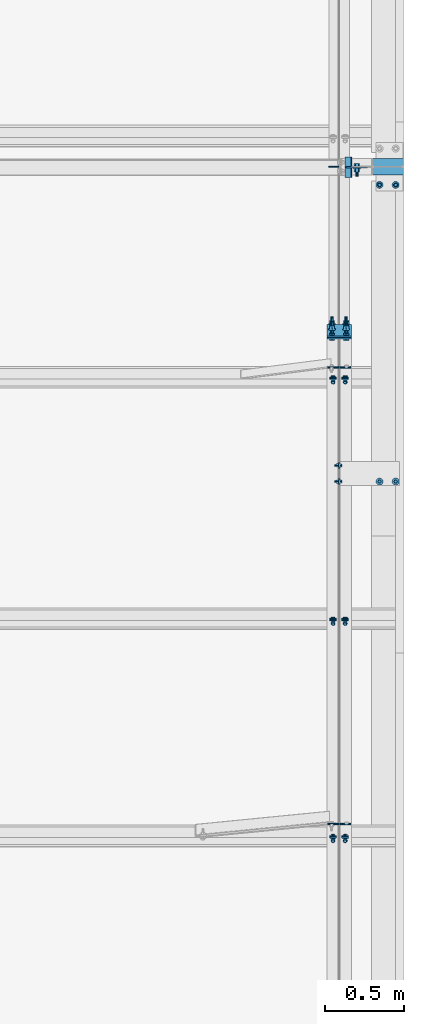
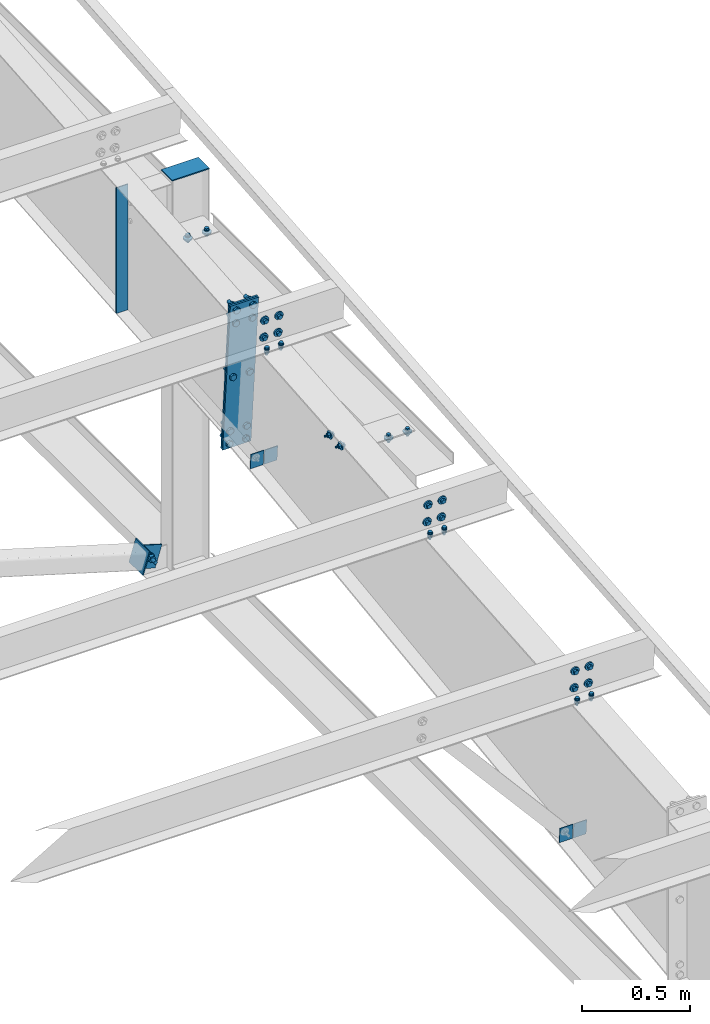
# One storey, part 105 of 185: 16 mechanical fasteners, 10 discrete accessories, 9 elements without a shape of their own.
"""IFC2X3 building model written with IfcOpenShell, lengths in millimetres."""

from ifc_helpers import new_model, si_unit, frame, frame_2d, origin_with_axes, origin_2d_with_axis, place, context, subcontext, project, spatial, polyline, circle_curve, parameter, trimmed, segment, composite_curve, rectangle, circle, outline, extrude, source, transform, mapped, material, type_object, element, aggregate, save


model = new_model("IFC2X3")

# Units and contexts
model_context = context("Model", 3, precision=1e-05, world=origin_with_axes())
body_context = subcontext(model_context, "Body", "Model", "MODEL_VIEW")
ifc_project = project(units=[si_unit("LENGTHUNIT", "METRE", prefix="MILLI"), si_unit("AREAUNIT", "SQUARE_METRE"), si_unit("VOLUMEUNIT", "CUBIC_METRE"), si_unit("MASSUNIT", "GRAM", prefix="KILO"), si_unit("TIMEUNIT", "SECOND"), si_unit("PLANEANGLEUNIT", "RADIAN"), si_unit("SOLIDANGLEUNIT", "STERADIAN"), si_unit("THERMODYNAMICTEMPERATUREUNIT", "DEGREE_CELSIUS"), si_unit("LUMINOUSINTENSITYUNIT", "LUMEN")], contexts=[model_context])

# Site, building, storey
site_placement = place(None, origin_with_axes())
site = spatial("IfcSite", under=ifc_project, at=site_placement, Name="Undefined", CompositionType="ELEMENT")
building_placement = place(site_placement, origin_with_axes())
building = spatial("IfcBuilding", under=site, at=building_placement, Name="Undefined", CompositionType="ELEMENT")
storey_placement = place(building_placement, origin_with_axes())
storey = spatial("IfcBuildingStorey", under=building, at=storey_placement, Name="Undefined", CompositionType="ELEMENT", Elevation=0.0)

# Assembly, discrete accessory
assembly_1_placement = place(storey_placement, origin_with_axes())
assembly_1 = element("IfcElementAssembly", 1, at=assembly_1_placement, inside=storey, Name="Steel Assembly", AssemblyPlace="NOTDEFINED", PredefinedType="RIGID_FRAME")
ifc_material_1 = material(Name="STEEL/55")
discrete_accessory_type_1 = type_object("IfcDiscreteAccessoryType", Name="Stiff")
discrete_accessory_1_placement = place(assembly_1_placement, frame((44518.14185, 6400.8, 6418.659375), z_axis=(-1.0, 0.0, 0.0), x_axis=(0.0, 0.0, -1.0)))
discrete_accessory_1 = element("IfcDiscreteAccessory", 2, at=discrete_accessory_1_placement, type_object=discrete_accessory_type_1, material=ifc_material_1, Name="Stiff", ObjectType="FL1/4\"X2 1/2\"", context=body_context, shape_type="SweptSolid", body=[
    extrude(rectangle(XDim=6.35, YDim=63.5, at=origin_2d_with_axis()), frame((712.793737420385, 0.0, 0.0), z_axis=(-1.0, 0.0, 0.0), x_axis=(0.0, -1.0, 0.0)), (0.0, 0.0, 1.0), 712.8),
])

# Assembly, mechanical fasteners
assembly_2_placement = place(storey_placement, origin_with_axes())
assembly_2 = element("IfcElementAssembly", 3, at=assembly_2_placement, inside=storey, Name="Steel Assembly", AssemblyPlace="NOTDEFINED", PredefinedType="RIGID_FRAME")
ifc_material_2 = material(Name="Undefined")
discrete_accessory_type_2 = type_object("IfcDiscreteAccessoryType", Name="Bolt assembly")
shared_shape_1 = source(origin_with_axes(), body_context, "Body", "SweptSolid", [
    extrude(circle(Radius=7.14374971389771, at=origin_2d_with_axis()), frame((0.0, -1.59000001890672, 0.0), z_axis=(0.0, 1.0, 0.0), x_axis=(1.0, 0.0, 0.0)), (0.0, 0.0, 1.0), 3.3),
    extrude(circle(Radius=13.4937496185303, at=origin_2d_with_axis()), frame((0.0, -5.5587500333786, 0.0), z_axis=(0.0, 1.0, 0.0), x_axis=(1.0, 0.0, 0.0)), (0.0, 0.0, 1.0), 4.0),
    extrude(circle(Radius=22.2250003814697, at=origin_2d_with_axis()), frame((0.0, 1.5900000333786, 0.0), z_axis=(0.0, 1.0, 0.0), x_axis=(1.0, 0.0, 0.0)), (0.0, 0.0, 1.0), 7.9),
    extrude(outline(polyline([(12.8316099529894, 0.0), (6.4158049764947, 11.1125001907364), (-6.4158049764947, 11.1125001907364), (-12.8316099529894, 0.0), (-6.4158049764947, -11.1125001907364), (6.4158049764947, -11.1125001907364), (12.8316099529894, 0.0)])), frame((0.0, 9.5275000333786, 0.0), z_axis=(0.0, 1.0, 0.0), x_axis=(1.0, 0.0, 0.0)), (0.0, 0.0, 1.0), 12.3),
])
mechanical_fastener_1_placement = place(assembly_2_placement, frame((44513.5, 2185.72394128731, 6227.16757842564), z_axis=(-1.0, 0.0, 0.0), x_axis=(0.0, 0.0830454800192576, -0.996545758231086)))
mechanical_fastener_1 = element("IfcMechanicalFastener", 4, at=mechanical_fastener_1_placement, type_object=discrete_accessory_type_2, material=ifc_material_2, Name="Bolt assembly", NominalDiameter=12.6999998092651, NominalLength=38.0999984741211, context=body_context, shape_type="MappedRepresentation", body=[
    mapped(shared_shape_1, transform((0.0, 0.0, 0.0))),
    mapped(shared_shape_1, transform((101.599998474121, 0.0, 0.0))),
])
mechanical_fastener_2_placement = place(assembly_2_placement, frame((44589.7, 2185.72394128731, 6227.16757842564), z_axis=(-1.0, 0.0, 0.0), x_axis=(0.0, 0.0830454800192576, -0.996545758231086)))
mechanical_fastener_2 = element("IfcMechanicalFastener", 5, at=mechanical_fastener_2_placement, type_object=discrete_accessory_type_2, material=ifc_material_2, Name="Bolt assembly", NominalDiameter=12.6999998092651, NominalLength=38.0999984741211, context=body_context, shape_type="MappedRepresentation", body=[
    mapped(shared_shape_1, transform((0.0, 0.0, 0.0))),
    mapped(shared_shape_1, transform((101.599998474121, 0.0, 0.0))),
])

assembly_3_placement = place(storey_placement, origin_with_axes())
assembly_3 = element("IfcElementAssembly", 6, at=assembly_3_placement, inside=storey, Name="Steel Assembly", AssemblyPlace="NOTDEFINED", PredefinedType="RIGID_FRAME")
mechanical_fastener_3_placement = place(assembly_3_placement, frame((44513.5, 3552.58610327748, 6341.07275882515), z_axis=(-1.0, 0.0, 0.0), x_axis=(0.0, 0.0830454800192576, -0.996545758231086)))
mechanical_fastener_3 = element("IfcMechanicalFastener", 7, at=mechanical_fastener_3_placement, type_object=discrete_accessory_type_2, material=ifc_material_2, Name="Bolt assembly", NominalDiameter=12.6999998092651, NominalLength=38.0999984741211, context=body_context, shape_type="MappedRepresentation", body=[
    mapped(shared_shape_1, transform((0.0, 0.0, 0.0))),
    mapped(shared_shape_1, transform((101.599998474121, 0.0, 0.0))),
])
mechanical_fastener_4_placement = place(assembly_3_placement, frame((44589.7, 3552.58610327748, 6341.07275882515), z_axis=(-1.0, 0.0, 0.0), x_axis=(0.0, 0.0830454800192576, -0.996545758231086)))
mechanical_fastener_4 = element("IfcMechanicalFastener", 8, at=mechanical_fastener_4_placement, type_object=discrete_accessory_type_2, material=ifc_material_2, Name="Bolt assembly", NominalDiameter=12.6999998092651, NominalLength=38.0999984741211, context=body_context, shape_type="MappedRepresentation", body=[
    mapped(shared_shape_1, transform((0.0, 0.0, 0.0))),
    mapped(shared_shape_1, transform((101.599998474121, 0.0, 0.0))),
])

assembly_4_placement = place(storey_placement, origin_with_axes())
assembly_4 = element("IfcElementAssembly", 9, at=assembly_4_placement, inside=storey, Name="Steel Assembly", AssemblyPlace="NOTDEFINED", PredefinedType="RIGID_FRAME")
mechanical_fastener_5_placement = place(assembly_4_placement, frame((44513.5, 5071.32183882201, 6467.63407037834), z_axis=(-1.0, 0.0, 0.0), x_axis=(0.0, 0.0830454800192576, -0.996545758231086)))
mechanical_fastener_5 = element("IfcMechanicalFastener", 10, at=mechanical_fastener_5_placement, type_object=discrete_accessory_type_2, material=ifc_material_2, Name="Bolt assembly", NominalDiameter=12.6999998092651, NominalLength=38.0999984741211, context=body_context, shape_type="MappedRepresentation", body=[
    mapped(shared_shape_1, transform((0.0, 0.0, 0.0))),
    mapped(shared_shape_1, transform((101.599998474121, 0.0, 0.0))),
])
mechanical_fastener_6_placement = place(assembly_4_placement, frame((44589.7, 5071.32183882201, 6467.63407037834), z_axis=(-1.0, 0.0, 0.0), x_axis=(0.0, 0.0830454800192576, -0.996545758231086)))
mechanical_fastener_6 = element("IfcMechanicalFastener", 11, at=mechanical_fastener_6_placement, type_object=discrete_accessory_type_2, material=ifc_material_2, Name="Bolt assembly", NominalDiameter=12.6999998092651, NominalLength=38.0999984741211, context=body_context, shape_type="MappedRepresentation", body=[
    mapped(shared_shape_1, transform((0.0, 0.0, 0.0))),
    mapped(shared_shape_1, transform((101.599998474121, 0.0, 0.0))),
])

# Assembly, discrete accessories
assembly_5_placement = place(storey_placement, origin_with_axes())
assembly_5 = element("IfcElementAssembly", 12, at=assembly_5_placement, inside=storey, Name="Steel Assembly", AssemblyPlace="NOTDEFINED", PredefinedType="RIGID_FRAME")
discrete_accessory_type_3 = type_object("IfcDiscreteAccessoryType", Name="PLATE")
discrete_accessory_2_placement = place(assembly_5_placement, frame((44644.4654492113, 6397.62500009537, 4205.58817041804), z_axis=(0.957765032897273, 0.0, -0.287551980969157), x_axis=(0.287551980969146, 0.0, 0.957765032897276)))
discrete_accessory_2 = element("IfcDiscreteAccessory", 13, at=discrete_accessory_2_placement, type_object=discrete_accessory_type_3, material=ifc_material_1, Name="PLATE", ObjectType="FL1/4\"X4\"", context=body_context, shape_type="SweptSolid", body=[
    extrude(rectangle(XDim=6.35, YDim=101.6, at=origin_2d_with_axis()), frame((127.000000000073, 3.63797855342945e-12, 7.27595761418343e-12), z_axis=(-1.0, 0.0, 0.0), x_axis=(0.0, -1.0, 0.0)), (0.0, 0.0, 1.0), 127.0),
])
discrete_accessory_3_placement = place(assembly_5_placement, frame((44592.7700815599, 6397.62500009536, 4221.10878859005), z_axis=(0.0, -1.0, 0.0), x_axis=(0.287551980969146, 0.0, 0.957765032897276)))
discrete_accessory_3 = element("IfcDiscreteAccessory", 14, at=discrete_accessory_3_placement, type_object=discrete_accessory_type_3, material=ifc_material_1, Name="PLATE", ObjectType="FL1/4\"X5\"", context=body_context, shape_type="SweptSolid", body=[
    extrude(rectangle(XDim=6.35, YDim=127.0, at=origin_2d_with_axis()), frame((127.000000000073, 3.63797855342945e-12, 7.27595761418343e-12), z_axis=(-1.0, 0.0, 0.0), x_axis=(0.0, -1.0, 0.0)), (0.0, 0.0, 1.0), 127.0),
])

# Assembly, discrete accessory
assembly_6_placement = place(storey_placement, origin_with_axes())
assembly_6 = element("IfcElementAssembly", 15, at=assembly_6_placement, inside=storey, Name="Steel Assembly", AssemblyPlace="NOTDEFINED", PredefinedType="RIGID_FRAME")
discrete_accessory_4_placement = place(assembly_6_placement, frame((44958.0, 6400.80000000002, 6392.8625), z_axis=(0.0, -1.0, 0.0), x_axis=(-1.0, 0.0, 0.0)))
discrete_accessory_4 = element("IfcDiscreteAccessory", 16, at=discrete_accessory_4_placement, type_object=discrete_accessory_type_3, material=ifc_material_1, Name="PLATE", ObjectType="FL1/4\"X4\"", context=body_context, shape_type="SweptSolid", body=[
    extrude(rectangle(XDim=6.35, YDim=101.6, at=origin_2d_with_axis()), frame((200.025000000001, 0.0, 0.0), z_axis=(-1.0, 0.0, 0.0), x_axis=(0.0, -1.0, 0.0)), (0.0, 0.0, 1.0), 200.0),
])
aggregate(assembly_6, [discrete_accessory_4])

# Assembly, discrete accessories
assembly_7_placement = place(storey_placement, origin_with_axes())
assembly_7 = element("IfcElementAssembly", 17, at=assembly_7_placement, inside=storey, Name="Steel Assembly", AssemblyPlace="NOTDEFINED", PredefinedType="RIGID_FRAME")
discrete_accessory_type_4 = type_object("IfcDiscreteAccessoryType", Name="FLANGE BRACE FLIP")
discrete_accessory_5_placement = place(assembly_7_placement, frame((44549.21875, 5139.30425126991, 5631.27807732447), z_axis=(0.0, 0.0830454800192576, -0.996545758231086), x_axis=(-1.0, 0.0, 0.0)))
discrete_accessory_5 = element("IfcDiscreteAccessory", 18, at=discrete_accessory_5_placement, type_object=discrete_accessory_type_4, material=ifc_material_1, Name="FLANGE BRACE FLIP", ObjectType="PL1/8\"X2 3/4\"", context=body_context, shape_type="SweptSolid", body=[
    extrude(rectangle(XDim=3.416, YDim=85.725, at=origin_2d_with_axis()), frame((69.8499999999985, 0.0, 0.0), z_axis=(-1.0, 0.0, 0.0), x_axis=(0.0, -1.0, 0.0)), (0.0, 0.0, 1.0), 69.8),
])
discrete_accessory_6_placement = place(assembly_7_placement, frame((44553.98125, 5139.30425126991, 5631.27807732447), z_axis=(0.0, 0.0830454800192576, -0.996545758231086), x_axis=(1.0, 0.0, 0.0)))
discrete_accessory_6 = element("IfcDiscreteAccessory", 19, at=discrete_accessory_6_placement, type_object=discrete_accessory_type_4, material=ifc_material_1, Name="FLANGE BRACE FLIP", ObjectType="PL1/8\"X2 3/4\"", context=body_context, shape_type="SweptSolid", body=[
    extrude(rectangle(XDim=3.416, YDim=85.725, at=origin_2d_with_axis()), frame((69.8499999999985, 0.0, 0.0), z_axis=(-1.0, 0.0, 0.0), x_axis=(0.0, -1.0, 0.0)), (0.0, 0.0, 1.0), 69.8),
])
discrete_accessory_7_placement = place(assembly_7_placement, frame((44549.21875, 2265.30818781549, 5251.58957642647), z_axis=(0.0, 0.0830454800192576, -0.996545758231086), x_axis=(-1.0, 0.0, 0.0)))
discrete_accessory_7 = element("IfcDiscreteAccessory", 20, at=discrete_accessory_7_placement, type_object=discrete_accessory_type_4, material=ifc_material_1, Name="FLANGE BRACE FLIP", ObjectType="PL1/8\"X2 3/4\"", context=body_context, shape_type="SweptSolid", body=[
    extrude(rectangle(XDim=3.416, YDim=85.725, at=origin_2d_with_axis()), frame((69.8499999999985, 0.0, 0.0), z_axis=(-1.0, 0.0, 0.0), x_axis=(0.0, -1.0, 0.0)), (0.0, 0.0, 1.0), 69.8),
])
discrete_accessory_8_placement = place(assembly_7_placement, frame((44553.98125, 2265.30818781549, 5251.58957642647), z_axis=(0.0, 0.0830454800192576, -0.996545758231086), x_axis=(1.0, 0.0, 0.0)))
discrete_accessory_8 = element("IfcDiscreteAccessory", 21, at=discrete_accessory_8_placement, type_object=discrete_accessory_type_4, material=ifc_material_1, Name="FLANGE BRACE FLIP", ObjectType="PL1/8\"X2 3/4\"", context=body_context, shape_type="SweptSolid", body=[
    extrude(rectangle(XDim=3.416, YDim=85.725, at=origin_2d_with_axis()), frame((69.8499999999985, 0.0, 0.0), z_axis=(-1.0, 0.0, 0.0), x_axis=(0.0, -1.0, 0.0)), (0.0, 0.0, 1.0), 69.8),
])

# Mechanical fastener
shared_shape_2 = source(origin_with_axes(), body_context, "Body", "SweptSolid", [
    extrude(circle(Radius=10.3187494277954, at=origin_2d_with_axis()), frame((0.0, -3.07500000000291, 0.0), z_axis=(0.0, 1.0, 0.0), x_axis=(1.0, 0.0, 0.0)), (0.0, 0.0, 1.0), 6.4),
    extrude(circle(Radius=10.3187494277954, at=origin_2d_with_axis()), frame((0.0, -0.1, 0.0), z_axis=(0.0, 1.0, 0.0), x_axis=(1.0, 0.0, 0.0)), (0.0, 0.0, 1.0), 6.5),
    extrude(outline(polyline([(18.3308710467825, 0.0), (9.16543552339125, 15.8750000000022), (-9.16543552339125, 15.8750000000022), (-18.3308710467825, 0.0), (-9.16543552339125, -15.8750000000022), (9.16543552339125, -15.8750000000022), (18.3308710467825, 0.0)])), frame((0.0, -19.0500000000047, 0.0), z_axis=(0.0, 1.0, 0.0), x_axis=(1.0, 0.0, 0.0)), (0.0, 0.0, 1.0), 11.9),
    extrude(circle(Radius=9.52499961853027, at=origin_2d_with_axis()), frame((0.0, -7.14375000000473, 0.0), z_axis=(0.0, 1.0, 0.0), x_axis=(1.0, 0.0, 0.0)), (0.0, 0.0, 1.0), 69.8),
    extrude(circle(Radius=18.2562503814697, at=origin_2d_with_axis()), frame((0.0, -7.14375000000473, 0.0), z_axis=(0.0, 1.0, 0.0), x_axis=(1.0, 0.0, 0.0)), (0.0, 0.0, 1.0), 4.0),
    extrude(circle(Radius=22.2250003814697, at=origin_2d_with_axis()), frame((0.0, 6.35000000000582, 0.0), z_axis=(0.0, 1.0, 0.0), x_axis=(1.0, 0.0, 0.0)), (0.0, 0.0, 1.0), 7.9),
    extrude(outline(polyline([(18.3308710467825, 0.0), (9.16543552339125, 15.8750000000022), (-9.16543552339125, 15.8750000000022), (-18.3308710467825, 0.0), (-9.16543552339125, -15.8750000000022), (9.16543552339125, -15.8750000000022), (18.3308710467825, 0.0)])), frame((0.0, 14.2875000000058, 0.0), z_axis=(0.0, 1.0, 0.0), x_axis=(1.0, 0.0, 0.0)), (0.0, 0.0, 1.0), 19.0),
])
mechanical_fastener_7_placement = place(assembly_5_placement, frame((44662.7249999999, 6400.8, 4266.40624999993), z_axis=(0.0, 0.0, -1.0), x_axis=(1.0, 0.0, 0.0)))
mechanical_fastener_7 = element("IfcMechanicalFastener", 22, at=mechanical_fastener_7_placement, type_object=discrete_accessory_type_2, material=ifc_material_2, Name="Bolt assembly", NominalDiameter=19.0499992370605, NominalLength=69.8499984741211, context=body_context, shape_type="MappedRepresentation", body=[
    mapped(shared_shape_2, transform((0.0, 0.0, 0.0))),
])

aggregate(assembly_5, [discrete_accessory_2, discrete_accessory_3, mechanical_fastener_7])

shared_shape_3 = source(origin_with_axes(), body_context, "Body", "SweptSolid", [
    extrude(circle(Radius=7.14374971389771, at=origin_2d_with_axis()), frame((0.0, -1.68991444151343, 0.0), z_axis=(0.0, 1.0, 0.0), x_axis=(1.0, 0.0, 0.0)), (0.0, 0.0, 1.0), 8.0),
    extrude(circle(Radius=7.14374971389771, at=origin_2d_with_axis()), frame((0.0, -3.08000006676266, 0.0), z_axis=(0.0, 1.0, 0.0), x_axis=(1.0, 0.0, 0.0)), (0.0, 0.0, 1.0), 3.2),
    extrude(outline(polyline([(10.9985221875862, 0.0), (5.4992610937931, 9.52499961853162), (-5.4992610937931, 9.52499961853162), (-10.9985221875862, 0.0), (-5.4992610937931, -9.52499961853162), (5.4992610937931, -9.52499961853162), (10.9985221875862, 0.0)])), frame((0.0, -16.6737496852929, 0.0), z_axis=(0.0, 1.0, 0.0), x_axis=(1.0, 0.0, 0.0)), (0.0, 0.0, 1.0), 9.5),
    extrude(circle(Radius=6.34999990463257, at=origin_2d_with_axis()), frame((0.0, -7.14875006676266, 0.0), z_axis=(0.0, 1.0, 0.0), x_axis=(1.0, 0.0, 0.0)), (0.0, 0.0, 1.0), 38.1),
    extrude(circle(Radius=13.4937496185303, at=origin_2d_with_axis()), frame((0.0, -7.14875006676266, 0.0), z_axis=(0.0, 1.0, 0.0), x_axis=(1.0, 0.0, 0.0)), (0.0, 0.0, 1.0), 4.0),
    extrude(outline(polyline([(12.8316099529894, 0.0), (6.4158049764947, 11.1125001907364), (-6.4158049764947, 11.1125001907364), (-12.8316099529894, 0.0), (-6.4158049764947, -11.1125001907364), (6.4158049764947, -11.1125001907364), (12.8316099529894, 0.0)])), frame((0.0, 6.28408555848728, 0.0), z_axis=(0.0, 1.0, 0.0), x_axis=(1.0, 0.0, 0.0)), (0.0, 0.0, 1.0), 12.3),
])
mechanical_fastener_8_placement = place(assembly_2_placement, frame((44551.6, 2160.41167902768, 6072.12997208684), z_axis=(1.0, 0.0, 0.0), x_axis=(0.0, -0.996545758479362, -0.0830454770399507)))
mechanical_fastener_8 = element("IfcMechanicalFastener", 23, at=mechanical_fastener_8_placement, type_object=discrete_accessory_type_2, material=ifc_material_2, Name="Bolt assembly", NominalDiameter=12.6999998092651, NominalLength=38.0999984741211, context=body_context, shape_type="MappedRepresentation", body=[
    mapped(shared_shape_3, transform((0.0, 0.0, -38.0999984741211))),
    mapped(shared_shape_3, transform((0.0, 0.0, 38.0999984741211))),
])

aggregate(assembly_2, [mechanical_fastener_8, mechanical_fastener_1, mechanical_fastener_2])

mechanical_fastener_9_placement = place(assembly_3_placement, frame((44551.6, 3527.27384101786, 6186.03515248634), z_axis=(1.0, 0.0, 0.0), x_axis=(0.0, -0.996545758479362, -0.0830454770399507)))
mechanical_fastener_9 = element("IfcMechanicalFastener", 24, at=mechanical_fastener_9_placement, type_object=discrete_accessory_type_2, material=ifc_material_2, Name="Bolt assembly", NominalDiameter=12.6999998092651, NominalLength=38.0999984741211, context=body_context, shape_type="MappedRepresentation", body=[
    mapped(shared_shape_3, transform((0.0, 0.0, -38.0999984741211))),
    mapped(shared_shape_3, transform((0.0, 0.0, 38.0999984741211))),
])

aggregate(assembly_3, [mechanical_fastener_9, mechanical_fastener_3, mechanical_fastener_4])

mechanical_fastener_10_placement = place(assembly_4_placement, frame((44551.6, 5046.00957656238, 6312.59646403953), z_axis=(1.0, 0.0, 0.0), x_axis=(0.0, -0.996545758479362, -0.0830454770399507)))
mechanical_fastener_10 = element("IfcMechanicalFastener", 25, at=mechanical_fastener_10_placement, type_object=discrete_accessory_type_2, material=ifc_material_2, Name="Bolt assembly", NominalDiameter=12.6999998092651, NominalLength=38.0999984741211, context=body_context, shape_type="MappedRepresentation", body=[
    mapped(shared_shape_3, transform((0.0, 0.0, -38.0999984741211))),
    mapped(shared_shape_3, transform((0.0, 0.0, 38.0999984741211))),
])

aggregate(assembly_4, [mechanical_fastener_10, mechanical_fastener_5, mechanical_fastener_6])

shared_shape_4 = source(origin_with_axes(), body_context, "Body", "SweptSolid", [
    extrude(circle(Radius=10.3187494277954, at=origin_2d_with_axis()), frame((0.0, -0.1, 0.0), z_axis=(0.0, 1.0, 0.0), x_axis=(1.0, 0.0, 0.0)), (0.0, 0.0, 1.0), 9.6),
    extrude(circle(Radius=10.3187494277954, at=origin_2d_with_axis()), frame((0.0, -9.55200000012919, 0.0), z_axis=(0.0, 1.0, 0.0), x_axis=(1.0, 0.0, 0.0)), (0.0, 0.0, 1.0), 9.7),
    extrude(outline(polyline([(18.3308710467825, 0.0), (9.16543552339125, 15.8750000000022), (-9.16543552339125, 15.8750000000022), (-18.3308710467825, 0.0), (-9.16543552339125, -15.8750000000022), (9.16543552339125, -15.8750000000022), (18.3308710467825, 0.0)])), frame((0.0, -21.5582500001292, 0.0), z_axis=(0.0, 1.0, 0.0), x_axis=(1.0, 0.0, 0.0)), (0.0, 0.0, 1.0), 11.9),
    extrude(circle(Radius=9.52499961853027, at=origin_2d_with_axis()), frame((0.0, -9.65200000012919, 0.0), z_axis=(0.0, 1.0, 0.0), x_axis=(1.0, 0.0, 0.0)), (0.0, 0.0, 1.0), 69.8),
    extrude(circle(Radius=22.2250003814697, at=origin_2d_with_axis()), frame((0.0, 9.52499999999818, 0.0), z_axis=(0.0, 1.0, 0.0), x_axis=(1.0, 0.0, 0.0)), (0.0, 0.0, 1.0), 7.9),
    extrude(outline(polyline([(18.3308710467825, 0.0), (9.16543552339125, 15.8750000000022), (-9.16543552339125, 15.8750000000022), (-18.3308710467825, 0.0), (-9.16543552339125, -15.8750000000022), (9.16543552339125, -15.8750000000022), (18.3308710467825, 0.0)])), frame((0.0, 17.4624999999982, 0.0), z_axis=(0.0, 1.0, 0.0), x_axis=(1.0, 0.0, 0.0)), (0.0, 0.0, 1.0), 19.0),
])
mechanical_fastener_11_placement = place(assembly_7_placement, frame((44551.6, 5396.76762445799, 5577.18504530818), z_axis=(-1.0, 0.0, 0.0), x_axis=(0.0, -0.0830454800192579, 0.996545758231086)))
mechanical_fastener_11 = element("IfcMechanicalFastener", 26, at=mechanical_fastener_11_placement, type_object=discrete_accessory_type_2, material=ifc_material_2, Name="Bolt assembly", NominalDiameter=19.0499992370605, NominalLength=69.8499984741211, context=body_context, shape_type="MappedRepresentation", body=[
    mapped(shared_shape_4, transform((0.0, 0.0, -44.4500007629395))),
    mapped(shared_shape_4, transform((76.1999969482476, 0.0, -44.4500007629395))),
    mapped(shared_shape_4, transform((0.0, 0.0, 44.4500007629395))),
    mapped(shared_shape_4, transform((76.1999969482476, 0.0, 44.4500007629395))),
])

mechanical_fastener_12_placement = place(assembly_7_placement, frame((44551.6, 5330.32293589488, 6374.5213064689), z_axis=(1.0, 0.0, 0.0), x_axis=(0.0, 0.0830454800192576, -0.996545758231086)))
mechanical_fastener_12 = element("IfcMechanicalFastener", 27, at=mechanical_fastener_12_placement, type_object=discrete_accessory_type_2, material=ifc_material_2, Name="Bolt assembly", NominalDiameter=19.0499992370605, NominalLength=69.8499984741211, context=body_context, shape_type="MappedRepresentation", body=[
    mapped(shared_shape_4, transform((0.0, 0.0, -44.4500007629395))),
    mapped(shared_shape_4, transform((76.1999969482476, 0.0, -44.4500007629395))),
    mapped(shared_shape_4, transform((0.0, 0.0, 44.4500007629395))),
    mapped(shared_shape_4, transform((76.1999969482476, 0.0, 44.4500007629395))),
])

shared_shape_5 = source(origin_with_axes(), body_context, "Body", "SweptSolid", [
    extrude(circle(Radius=10.3187494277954, at=origin_2d_with_axis()), frame((0.0, -0.0856426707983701, 0.0), z_axis=(0.0, 1.0, 0.0), x_axis=(1.0, 0.0, 0.0)), (0.0, 0.0, 1.0), 9.6),
    extrude(circle(Radius=10.3187494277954, at=origin_2d_with_axis()), frame((0.0, -9.53764267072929, 0.0), z_axis=(0.0, 1.0, 0.0), x_axis=(1.0, 0.0, 0.0)), (0.0, 0.0, 1.0), 9.7),
    extrude(outline(polyline([(18.3308710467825, 0.0), (9.16543552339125, 15.8750000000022), (-9.16543552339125, 15.8750000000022), (-18.3308710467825, 0.0), (-9.16543552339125, -15.8750000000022), (9.16543552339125, -15.8750000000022), (18.3308710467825, 0.0)])), frame((0.0, -21.5438926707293, 0.0), z_axis=(0.0, 1.0, 0.0), x_axis=(1.0, 0.0, 0.0)), (0.0, 0.0, 1.0), 11.9),
    extrude(circle(Radius=9.52499961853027, at=origin_2d_with_axis()), frame((0.0, -9.63764267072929, 0.0), z_axis=(0.0, 1.0, 0.0), x_axis=(1.0, 0.0, 0.0)), (0.0, 0.0, 1.0), 69.8),
    extrude(circle(Radius=22.2250003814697, at=origin_2d_with_axis()), frame((0.0, 9.53935732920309, 0.0), z_axis=(0.0, 1.0, 0.0), x_axis=(1.0, 0.0, 0.0)), (0.0, 0.0, 1.0), 7.9),
    extrude(outline(polyline([(18.3308710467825, 0.0), (9.16543552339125, 15.8750000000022), (-9.16543552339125, 15.8750000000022), (-18.3308710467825, 0.0), (-9.16543552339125, -15.8750000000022), (9.16543552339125, -15.8750000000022), (18.3308710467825, 0.0)])), frame((0.0, 17.4768573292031, 0.0), z_axis=(0.0, 1.0, 0.0), x_axis=(1.0, 0.0, 0.0)), (0.0, 0.0, 1.0), 19.0),
])
mechanical_fastener_13_placement = place(assembly_7_placement, frame((44551.6, 5363.53097244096, 5975.85198357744), z_axis=(1.0, 0.0, 0.0), x_axis=(0.0, 0.0830454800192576, -0.996545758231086)))
mechanical_fastener_13 = element("IfcMechanicalFastener", 28, at=mechanical_fastener_13_placement, type_object=discrete_accessory_type_2, material=ifc_material_2, Name="Bolt assembly", NominalDiameter=19.0499992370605, NominalLength=69.8499984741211, context=body_context, shape_type="MappedRepresentation", body=[
    mapped(shared_shape_5, transform((0.0, 0.0, -44.4500007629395))),
    mapped(shared_shape_5, transform((0.0, 0.0, 44.4500007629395))),
])

# Assembly, mechanical fasteners
assembly_8_placement = place(storey_placement, origin_with_axes())
assembly_8 = element("IfcElementAssembly", 29, at=assembly_8_placement, inside=storey, Name="Steel Assembly", AssemblyPlace="NOTDEFINED", PredefinedType="RIGID_FRAME")
shared_shape_6 = source(origin_with_axes(), body_context, "Body", "SweptSolid", [
    extrude(outline(composite_curve([segment(polyline([(-5.953125, 7.14374971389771), (5.953125, 7.14374971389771)]), True, "CONTINUOUS"), segment(trimmed(circle_curve(frame_2d((5.953125, 0.0), x_axis=(0.0, 1.0)), 7.1), [parameter(0.0)], [parameter(3.14159265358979)], False, "PARAMETER"), True, "CONTINUOUS"), segment(polyline([(5.953125, -7.14374971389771), (-5.953125, -7.14374971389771)]), True, "CONTINUOUS"), segment(trimmed(circle_curve(frame_2d((-5.953125, 0.0), x_axis=(0.0, -1.0)), 7.1), [parameter(0.0)], [parameter(3.14159265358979)], False, "PARAMETER"), True, "DISCONTINUOUS")], self_intersect=False)), frame((0.0, -4.66250000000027, 0.0), z_axis=(0.0, 1.0, 0.0), x_axis=(1.0, 0.0, 0.0)), (0.0, 0.0, 1.0), 4.8),
    extrude(circle(Radius=7.14374971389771, at=origin_2d_with_axis()), frame((0.0, -1.69000003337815, 0.0), z_axis=(0.0, 1.0, 0.0), x_axis=(1.0, 0.0, 0.0)), (0.0, 0.0, 1.0), 3.3),
    extrude(outline(polyline([(10.9985221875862, 0.0), (5.4992610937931, 9.52499961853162), (-5.4992610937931, 9.52499961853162), (-10.9985221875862, 0.0), (-5.4992610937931, -9.52499961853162), (5.4992610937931, -9.52499961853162), (10.9985221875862, 0.0)])), frame((0.0, -18.2562496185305, 0.0), z_axis=(0.0, 1.0, 0.0), x_axis=(1.0, 0.0, 0.0)), (0.0, 0.0, 1.0), 9.5),
    extrude(circle(Radius=6.34999990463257, at=origin_2d_with_axis()), frame((0.0, -8.73125000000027, 0.0), z_axis=(0.0, 1.0, 0.0), x_axis=(1.0, 0.0, 0.0)), (0.0, 0.0, 1.0), 38.1),
    extrude(circle(Radius=13.4937496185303, at=origin_2d_with_axis()), frame((0.0, -8.73125000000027, 0.0), z_axis=(0.0, 1.0, 0.0), x_axis=(1.0, 0.0, 0.0)), (0.0, 0.0, 1.0), 4.0),
    extrude(circle(Radius=22.2250003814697, at=origin_2d_with_axis()), frame((0.0, 1.5900000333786, 0.0), z_axis=(0.0, 1.0, 0.0), x_axis=(1.0, 0.0, 0.0)), (0.0, 0.0, 1.0), 7.9),
    extrude(outline(polyline([(12.8316099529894, 0.0), (6.4158049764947, 11.1125001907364), (-6.4158049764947, 11.1125001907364), (-12.8316099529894, 0.0), (-6.4158049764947, -11.1125001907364), (6.4158049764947, -11.1125001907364), (12.8316099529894, 0.0)])), frame((0.0, 9.5275000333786, 0.0), z_axis=(0.0, 1.0, 0.0), x_axis=(1.0, 0.0, 0.0)), (0.0, 0.0, 1.0), 12.3),
])
mechanical_fastener_14_placement = place(assembly_8_placement, frame((44907.2000007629, 6286.50000000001, 6096.0), z_axis=(0.0, -1.0, 0.0), x_axis=(-1.0, 0.0, 0.0)))
mechanical_fastener_14 = element("IfcMechanicalFastener", 30, at=mechanical_fastener_14_placement, type_object=discrete_accessory_type_2, material=ifc_material_2, Name="Bolt assembly", NominalDiameter=12.6999998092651, NominalLength=38.0999984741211, context=body_context, shape_type="MappedRepresentation", body=[
    mapped(shared_shape_6, transform((0.0, 0.0, 0.0))),
    mapped(shared_shape_6, transform((101.599998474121, 0.0, 0.0))),
])
shared_shape_7 = source(origin_with_axes(), body_context, "Body", "SweptSolid", [
    extrude(circle(Radius=7.14374971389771, at=origin_2d_with_axis()), frame((0.0, -1.59500110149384, 0.0), z_axis=(0.0, 1.0, 0.0), x_axis=(1.0, 0.0, 0.0)), (0.0, 0.0, 1.0), 3.3),
    extrude(outline(polyline([(10.9985221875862, 0.0), (5.4992610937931, 9.52499961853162), (-5.4992610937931, 9.52499961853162), (-10.9985221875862, 0.0), (-5.4992610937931, -9.52499961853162), (5.4992610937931, -9.52499961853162), (10.9985221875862, 0.0)])), frame((0.0, -15.0887507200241, 0.0), z_axis=(0.0, 1.0, 0.0), x_axis=(1.0, 0.0, 0.0)), (0.0, 0.0, 1.0), 9.5),
    extrude(circle(Radius=6.34999990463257, at=origin_2d_with_axis()), frame((0.0, -5.56375110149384, 0.0), z_axis=(0.0, 1.0, 0.0), x_axis=(1.0, 0.0, 0.0)), (0.0, 0.0, 1.0), 38.1),
    extrude(circle(Radius=13.4937496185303, at=origin_2d_with_axis()), frame((0.0, -5.56375110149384, 0.0), z_axis=(0.0, 1.0, 0.0), x_axis=(1.0, 0.0, 0.0)), (0.0, 0.0, 1.0), 4.0),
    extrude(circle(Radius=22.2250003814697, at=origin_2d_with_axis()), frame((0.0, 1.58499896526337, 0.0), z_axis=(0.0, 1.0, 0.0), x_axis=(1.0, 0.0, 0.0)), (0.0, 0.0, 1.0), 7.9),
    extrude(outline(polyline([(12.8316099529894, 0.0), (6.4158049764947, 11.1125001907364), (-6.4158049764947, 11.1125001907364), (-12.8316099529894, 0.0), (-6.4158049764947, -11.1125001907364), (6.4158049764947, -11.1125001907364), (12.8316099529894, 0.0)])), frame((0.0, 9.52249896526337, 0.0), z_axis=(0.0, 1.0, 0.0), x_axis=(1.0, 0.0, 0.0)), (0.0, 0.0, 1.0), 12.3),
])
mechanical_fastener_15_placement = place(assembly_8_placement, frame((44805.5999992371, 4419.60000000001, 6095.99499893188), z_axis=(0.0, 1.0, 0.0), x_axis=(1.0, 0.0, 0.0)))
mechanical_fastener_15 = element("IfcMechanicalFastener", 31, at=mechanical_fastener_15_placement, type_object=discrete_accessory_type_2, material=ifc_material_2, Name="Bolt assembly", NominalDiameter=12.6999998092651, NominalLength=38.0999984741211, context=body_context, shape_type="MappedRepresentation", body=[
    mapped(shared_shape_7, transform((0.0, 0.0, 0.0))),
    mapped(shared_shape_7, transform((101.599998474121, 0.0, 0.0))),
])
aggregate(assembly_8, [mechanical_fastener_14, mechanical_fastener_15])

# Assembly, mechanical fastener
assembly_9_placement = place(storey_placement, origin_with_axes())
assembly_9 = element("IfcElementAssembly", 32, at=assembly_9_placement, inside=storey, Name="Steel Assembly", AssemblyPlace="NOTDEFINED", PredefinedType="RIGID_FRAME")
shared_shape_8 = source(origin_with_axes(), body_context, "Body", "SweptSolid", [
    extrude(outline(polyline([(10.9985221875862, 0.0), (5.4992610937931, 9.52499961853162), (-5.4992610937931, 9.52499961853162), (-10.9985221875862, 0.0), (-5.4992610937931, -9.52499961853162), (5.4992610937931, -9.52499961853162), (10.9985221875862, 0.0)])), frame((0.0, -13.4937496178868, 0.0), z_axis=(0.0, 1.0, 0.0), x_axis=(1.0, 0.0, 0.0)), (0.0, 0.0, 1.0), 9.5),
    extrude(circle(Radius=6.34999990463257, at=origin_2d_with_axis()), frame((0.0, -3.96874999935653, 0.0), z_axis=(0.0, 1.0, 0.0), x_axis=(1.0, 0.0, 0.0)), (0.0, 0.0, 1.0), 38.1),
    extrude(circle(Radius=13.4937496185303, at=origin_2d_with_axis()), frame((0.0, -3.96874999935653, 0.0), z_axis=(0.0, 1.0, 0.0), x_axis=(1.0, 0.0, 0.0)), (0.0, 0.0, 1.0), 4.0),
    extrude(circle(Radius=22.2250003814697, at=origin_2d_with_axis()), frame((0.0, 0.0, 0.0), z_axis=(0.0, 1.0, 0.0), x_axis=(1.0, 0.0, 0.0)), (0.0, 0.0, 1.0), 7.9),
    extrude(outline(polyline([(12.8316099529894, 0.0), (6.4158049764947, 11.1125001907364), (-6.4158049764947, 11.1125001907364), (-12.8316099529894, 0.0), (-6.4158049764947, -11.1125001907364), (6.4158049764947, -11.1125001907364), (12.8316099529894, 0.0)])), frame((0.0, 7.93750000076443, 0.0), z_axis=(0.0, 1.0, 0.0), x_axis=(1.0, 0.0, 0.0)), (0.0, 0.0, 1.0), 12.3),
])
mechanical_fastener_16_placement = place(assembly_9_placement, frame((44554.775, 4470.40000000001, 6134.09499740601), z_axis=(0.0, -1.0, 0.0), x_axis=(0.0, 0.0, 1.0)))
mechanical_fastener_16 = element("IfcMechanicalFastener", 33, at=mechanical_fastener_16_placement, type_object=discrete_accessory_type_2, material=ifc_material_2, Name="Bolt assembly", NominalDiameter=12.6999998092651, NominalLength=38.0999984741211, context=body_context, shape_type="MappedRepresentation", body=[
    mapped(shared_shape_8, transform((0.0, 0.0, -50.7999992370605))),
    mapped(shared_shape_8, transform((0.0, 0.0, 50.7999992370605))),
])
aggregate(assembly_9, [mechanical_fastener_16])

# Discrete accessory
discrete_accessory_type_5 = type_object("IfcDiscreteAccessoryType", Name="Start Splice Plate")
discrete_accessory_9_placement = place(assembly_1_placement, frame((44551.6, 5332.43229133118, 6406.55713535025), z_axis=(1.0, 0.0, 0.0), x_axis=(0.0, 0.0830454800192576, -0.996545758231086)))
discrete_accessory_9 = element("IfcDiscreteAccessory", 34, at=discrete_accessory_9_placement, type_object=discrete_accessory_type_5, material=ifc_material_1, Name="Start Splice Plate", ObjectType="FL3/8\"X6\"", context=body_context, shape_type="SweptSolid", body=[
    extrude(rectangle(XDim=9.525, YDim=152.4, at=origin_2d_with_axis()), frame((863.599993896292, 1.19848574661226e-14, 0.0), z_axis=(-1.0, 0.0, 0.0), x_axis=(0.0, -1.0, 0.0)), (0.0, 0.0, 1.0), 863.6),
])

aggregate(assembly_1, [discrete_accessory_1, discrete_accessory_9])

discrete_accessory_type_6 = type_object("IfcDiscreteAccessoryType", Name="End Splice Plate")
discrete_accessory_10_placement = place(assembly_7_placement, frame((44551.6, 5322.87691232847, 6405.76085376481), z_axis=(1.0, 0.0, 0.0), x_axis=(0.0, 0.0830454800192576, -0.996545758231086)))
discrete_accessory_10 = element("IfcDiscreteAccessory", 35, at=discrete_accessory_10_placement, type_object=discrete_accessory_type_6, material=ifc_material_1, Name="End Splice Plate", ObjectType="PL3/8\"X6\"", context=body_context, shape_type="SweptSolid", body=[
    extrude(rectangle(XDim=9.652, YDim=152.4, at=origin_2d_with_axis()), frame((863.599993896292, 1.19848574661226e-14, 0.0), z_axis=(-1.0, 0.0, 0.0), x_axis=(0.0, -1.0, 0.0)), (0.0, 0.0, 1.0), 863.6),
])

aggregate(assembly_7, [mechanical_fastener_13, discrete_accessory_5, discrete_accessory_6, discrete_accessory_7, discrete_accessory_8, mechanical_fastener_11, mechanical_fastener_12, discrete_accessory_10])

save(model, "model.ifc")
